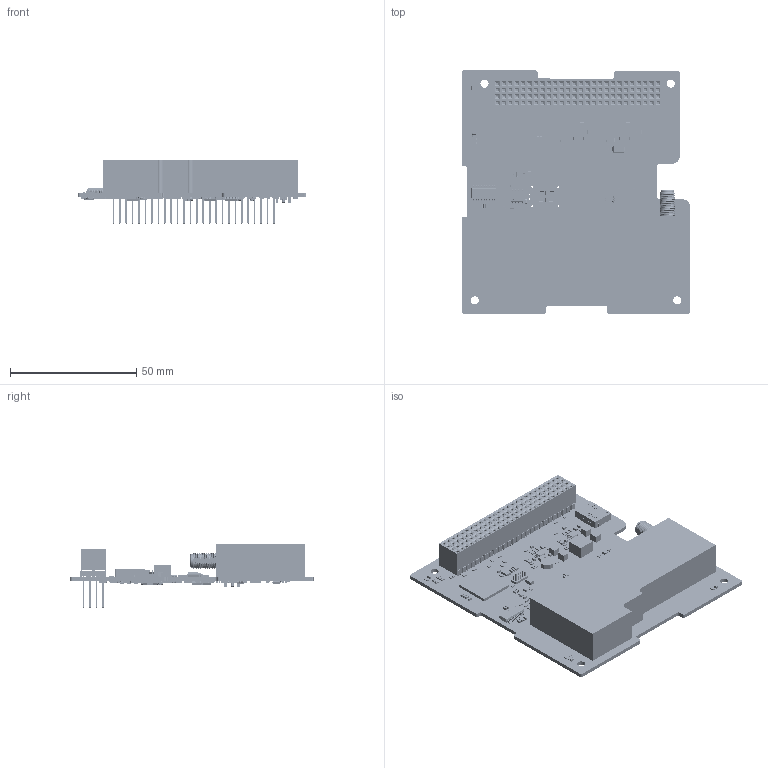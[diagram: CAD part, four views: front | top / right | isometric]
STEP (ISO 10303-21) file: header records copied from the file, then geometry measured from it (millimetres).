
FILE_DESCRIPTION (( 'STEP AP214' ), '1' );
FILE_NAME ('CAD-01-00031 Rev C - sanitised.STEP', '2016-01-27T07:48:24', ( 'CPUT' ), ( 'CPUT' ), 'SwSTEP 2.0', 'SolidWorks 2013', '' );
FILE_SCHEMA (( 'AUTOMOTIVE_DESIGN' ));
Length unit declared in the file: millimetre
Products named in the file (1): CAD-01-00031 Rev C - sanitised
Bounding box: 90.44 x 96.15 x 25.13 mm (x, y, z)
Volume: 50753.2 mm3; surface area: 37800.1 mm2
Topology: 524 solids, 525 shells, 15650 faces, 39292 edges, 23599 vertices
Faces by surface type: plane 10843, cylinder 3345, bspline 1145, sphere 214, cone 87, torus 16
Entity records: 675552 total; most frequent: CARTESIAN_POINT 136543, ORIENTED_EDGE 76160, DIRECTION 71316, EDGE_CURVE 38080, VECTOR 29148, LINE 29148, VERTEX_POINT 23599, AXIS2_PLACEMENT_3D 21084
